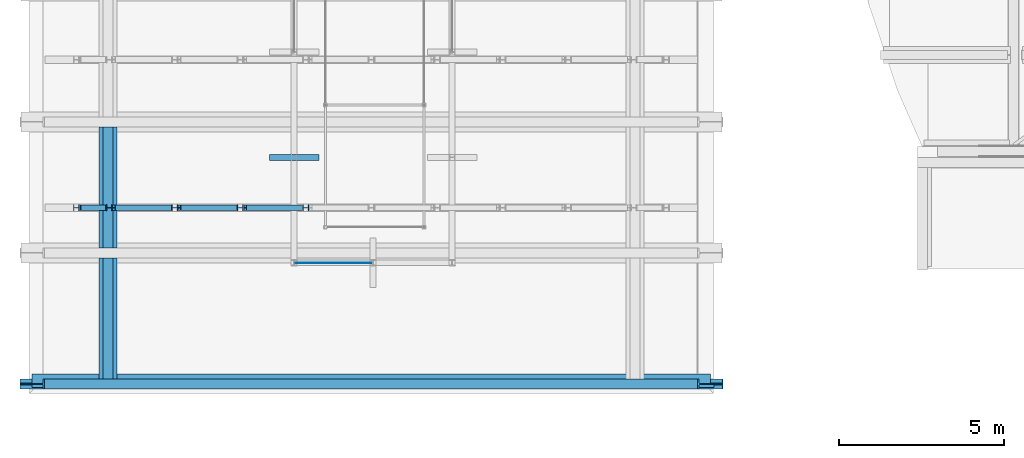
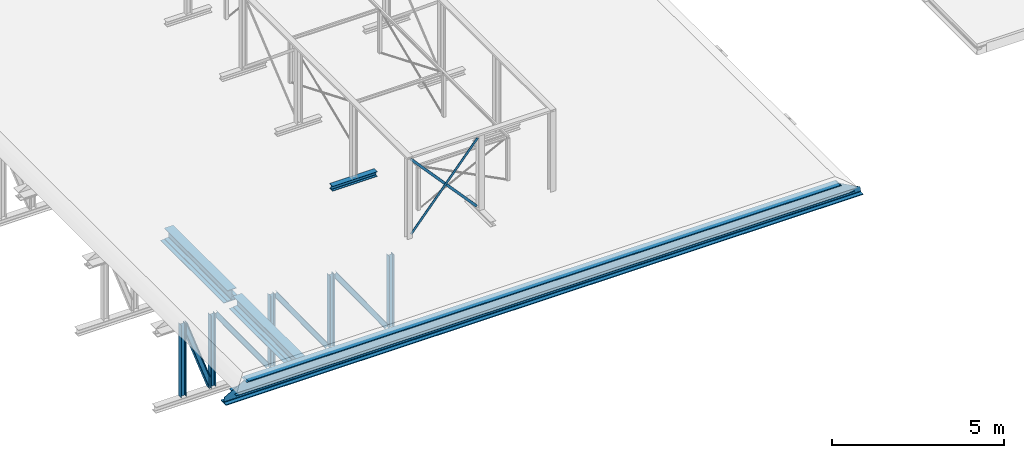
# One storey, part 8 of 50: 15 beams.
"""IFC2X3 building model written with IfcOpenShell, lengths in millimetres."""

from ifc_helpers import new_model, entity, si_unit, converted_unit, derived_unit, direction, frame, frame_2d, origin, origin_2d_with_axis, place, context, subcontext, project, spatial, polyline, circle_curve, parameter, trimmed, segment, composite_curve, rectangle, i_section, outline, extrude, clip, halfspace, bounded_halfspace, source, transform, mapped, material, material_list, type_object, type_shapes, element, save


model = new_model("IFC2X3")

# Units and contexts
model_context = context("Model", 3, precision=0.01, world=origin(), true_north=direction((6.12303176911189e-17, 1.0)))
body_context = subcontext(model_context, "Body", "Model", "MODEL_VIEW")
ifc_project = project(units=[si_unit("LENGTHUNIT", "METRE", prefix="MILLI"), si_unit("AREAUNIT", "SQUARE_METRE", prefix="MILLI"), si_unit("VOLUMEUNIT", "CUBIC_METRE"), converted_unit("PLANEANGLEUNIT", "DEGREE", entity("IfcRatioMeasure", 0.0174532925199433), si_unit("PLANEANGLEUNIT", "RADIAN"), dimensions=[0, 0, 0, 0, 0, 0, 0]), si_unit("MASSUNIT", "GRAM", prefix="KILO"), derived_unit("MASSDENSITYUNIT", [(si_unit("MASSUNIT", "GRAM", prefix="KILO"), 1), (si_unit("LENGTHUNIT", "METRE"), -3)]), derived_unit("MOMENTOFINERTIAUNIT", [(si_unit("LENGTHUNIT", "METRE"), 4)]), si_unit("TIMEUNIT", "SECOND"), si_unit("FREQUENCYUNIT", "HERTZ"), si_unit("THERMODYNAMICTEMPERATUREUNIT", "DEGREE_CELSIUS"), derived_unit("THERMALTRANSMITTANCEUNIT", [(si_unit("MASSUNIT", "GRAM", prefix="KILO"), 1), (si_unit("THERMODYNAMICTEMPERATUREUNIT", "KELVIN"), -1), (si_unit("TIMEUNIT", "SECOND"), -3)]), derived_unit("VOLUMETRICFLOWRATEUNIT", [(si_unit("LENGTHUNIT", "METRE"), 3), (si_unit("TIMEUNIT", "SECOND"), -1)]), si_unit("ELECTRICCURRENTUNIT", "AMPERE"), si_unit("ELECTRICVOLTAGEUNIT", "VOLT"), si_unit("POWERUNIT", "WATT"), si_unit("FORCEUNIT", "NEWTON", prefix="KILO"), si_unit("ILLUMINANCEUNIT", "LUX"), si_unit("LUMINOUSFLUXUNIT", "LUMEN"), si_unit("LUMINOUSINTENSITYUNIT", "CANDELA"), derived_unit("USERDEFINED", [(si_unit("MASSUNIT", "GRAM", prefix="KILO"), -1), (si_unit("LENGTHUNIT", "METRE"), -2), (si_unit("TIMEUNIT", "SECOND"), 3), (si_unit("LUMINOUSFLUXUNIT", "LUMEN"), 1)]), derived_unit("LINEARVELOCITYUNIT", [(si_unit("LENGTHUNIT", "METRE"), 1), (si_unit("TIMEUNIT", "SECOND"), -1)]), si_unit("PRESSUREUNIT", "PASCAL"), derived_unit("USERDEFINED", [(si_unit("LENGTHUNIT", "METRE"), -2), (si_unit("MASSUNIT", "GRAM", prefix="KILO"), 1), (si_unit("TIMEUNIT", "SECOND"), -2)]), derived_unit("LINEARFORCEUNIT", [(si_unit("MASSUNIT", "GRAM", prefix="KILO"), 1), (si_unit("LENGTHUNIT", "METRE"), 1), (si_unit("TIMEUNIT", "SECOND"), -2), (si_unit("LENGTHUNIT", "METRE"), -1)]), derived_unit("PLANARFORCEUNIT", [(si_unit("MASSUNIT", "GRAM", prefix="KILO"), 1), (si_unit("LENGTHUNIT", "METRE"), 1), (si_unit("TIMEUNIT", "SECOND"), -2), (si_unit("LENGTHUNIT", "METRE"), -2)])], contexts=[model_context])

# Site, building, storey
site_placement = place(None, origin())
site = spatial("IfcSite", under=ifc_project, at=site_placement, Name="Theater aan de Parade", CompositionType="ELEMENT")
building_placement = place(site_placement, origin())
building = spatial("IfcBuilding", under=site, at=building_placement, Name="Theater aan de Parade", CompositionType="ELEMENT")
storey_placement = place(building_placement, frame((0.0, 0.0, 15820.0)))
storey = spatial("IfcBuildingStorey", under=building, at=storey_placement, Name="04 vierde verdieping", CompositionType="ELEMENT", Elevation=15820.0)

# Beams
ifc_material_1 = material(Name="00_PBT_MAT_staal_S355")
beam_type_1 = type_object("IfcBeamType", Name="28_PBT_SF_staal_H-profiel:S355_HE180A", PredefinedType="NOTDEFINED")
beam_1_placement = place(storey_placement, frame((17139.8569884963, 19068.2922984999, -4340.0), z_axis=(1.0, 0.0, 0.0), x_axis=(0.0, 0.0, 1.0)))
element("IfcBeam", 1, at=beam_1_placement, inside=storey, type_object=beam_type_1, material=ifc_material_1, Name="28_PBT_SF_staal_H-profiel:S355_HE180A", ObjectType="28_PBT_SF_staal_H-profiel:S355_HE180A", context=body_context, shape_type="SweptSolid", body=[
    extrude(i_section(OverallWidth=180.0, OverallDepth=171.0, WebThickness=5.99999999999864, FlangeThickness=9.49999999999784, FilletRadius=15.0000000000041, at=frame_2d((-2.16715534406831e-12, -1.08002495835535e-12), x_axis=(0.0, 1.0))), frame((122.7, 0.0, 0.0), z_axis=(1.0, 0.0, 0.0), x_axis=(0.0, 0.0, -1.0)), (0.0, 0.0, 1.0), 2574.60000000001),
])
beam_2_placement = place(storey_placement, frame((18135.8569884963, 19068.2922984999, -4340.0), z_axis=(1.0, 0.0, 0.0), x_axis=(0.0, 0.0, 1.0)))
element("IfcBeam", 2, at=beam_2_placement, inside=storey, type_object=beam_type_1, material=ifc_material_1, Name="28_PBT_SF_staal_H-profiel:S355_HE180A", ObjectType="28_PBT_SF_staal_H-profiel:S355_HE180A", context=body_context, shape_type="SweptSolid", body=[
    extrude(i_section(OverallWidth=180.0, OverallDepth=171.0, WebThickness=5.99999999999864, FlangeThickness=9.49999999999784, FilletRadius=15.0000000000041, at=frame_2d((-4.33431068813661e-12, 1.08002495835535e-12), x_axis=(0.0, 1.0))), frame((122.7, 0.0, 0.0), z_axis=(1.0, 0.0, 0.0), x_axis=(0.0, 0.0, -1.0)), (0.0, 0.0, 1.0), 2574.60000000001),
])
beam_3_placement = place(storey_placement, frame((20127.8569884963, 19068.2922984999, -4340.0), z_axis=(1.0, 0.0, 0.0), x_axis=(0.0, 0.0, 1.0)))
element("IfcBeam", 3, at=beam_3_placement, inside=storey, type_object=beam_type_1, material=ifc_material_1, Name="28_PBT_SF_staal_H-profiel:S355_HE180A", ObjectType="28_PBT_SF_staal_H-profiel:S355_HE180A", context=body_context, shape_type="SweptSolid", body=[
    extrude(i_section(OverallWidth=180.0, OverallDepth=171.0, WebThickness=5.99999999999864, FlangeThickness=9.49999999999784, FilletRadius=15.0000000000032, at=frame_2d((2.16715534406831e-12, 5.41433564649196e-12), x_axis=(0.0, 1.0))), frame((122.700000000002, 0.0, 0.0), z_axis=(1.0, 0.0, 0.0), x_axis=(0.0, 0.0, -1.0)), (0.0, 0.0, 1.0), 2574.60000000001),
])
beam_4_placement = place(storey_placement, frame((22119.8569884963, 19068.2922984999, -4340.0), z_axis=(1.0, 0.0, 0.0), x_axis=(0.0, 0.0, 1.0)))
element("IfcBeam", 4, at=beam_4_placement, inside=storey, type_object=beam_type_1, material=ifc_material_1, Name="28_PBT_SF_staal_H-profiel:S355_HE180A", ObjectType="28_PBT_SF_staal_H-profiel:S355_HE180A", context=body_context, shape_type="SweptSolid", body=[
    extrude(i_section(OverallWidth=180.0, OverallDepth=171.0, WebThickness=5.99999999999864, FlangeThickness=9.49999999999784, FilletRadius=15.0000000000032, at=frame_2d((-2.16715534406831e-12, -1.08002495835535e-12), x_axis=(0.0, 1.0))), frame((122.699999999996, 0.0, 0.0), z_axis=(1.0, 0.0, 0.0), x_axis=(0.0, 0.0, -1.0)), (0.0, 0.0, 1.0), 2574.60000000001),
])
beam_5_placement = place(storey_placement, frame((24111.8569884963, 19068.2922984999, -4340.0), z_axis=(1.0, 0.0, 0.0), x_axis=(0.0, 0.0, 1.0)))
element("IfcBeam", 5, at=beam_5_placement, inside=storey, type_object=beam_type_1, material=ifc_material_1, Name="28_PBT_SF_staal_H-profiel:S355_HE180A", ObjectType="28_PBT_SF_staal_H-profiel:S355_HE180A", context=body_context, shape_type="SweptSolid", body=[
    extrude(i_section(OverallWidth=180.0, OverallDepth=171.0, WebThickness=5.99999999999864, FlangeThickness=9.49999999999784, FilletRadius=15.0000000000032, at=frame_2d((-2.16715534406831e-12, -1.08002495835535e-12), x_axis=(0.0, 1.0))), frame((122.7, 0.0, 0.0), z_axis=(1.0, 0.0, 0.0), x_axis=(0.0, 0.0, -1.0)), (0.0, 0.0, 1.0), 2574.60000000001),
])
beam_6_placement = place(storey_placement, frame((17139.8569884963, 19068.2922984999, -1520.0), z_axis=(0.942916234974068, 0.0, 0.333029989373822), x_axis=(0.333029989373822, 0.0, -0.942916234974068)))
element("IfcBeam", 6, at=beam_6_placement, inside=storey, type_object=beam_type_1, material=ifc_material_1, Name="28_PBT_SF_staal_H-profiel:S355_HE180A", ObjectType="28_PBT_SF_staal_H-profiel:S355_HE180A", context=body_context, shape_type="Clipping", body=[
    clip(clip(extrude(outline(composite_curve([segment(polyline([(76.0, -90.0), (85.5000000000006, -90.0)]), True, "CONTINUOUS"), segment(polyline([(85.4999999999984, -90.0), (85.5000000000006, 90.0)]), True, "CONTINUOUS"), segment(polyline([(85.4999999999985, 90.0), (76.0, 90.0)]), True, "CONTINUOUS"), segment(polyline([(76.0, 90.0), (76.0, 18.0)]), True, "CONTINUOUS"), segment(trimmed(circle_curve(frame_2d((61.0, 18.0), x_axis=(1.0, 0.0)), 15.0000000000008), [parameter(270.0)], [parameter(0.0)], True, "PARAMETER"), False, "CONTINUOUS"), segment(polyline([(61.0, 3.0), (-61.0, 3.0)]), True, "CONTINUOUS"), segment(trimmed(circle_curve(frame_2d((-61.0, 18.0), x_axis=(0.0, -1.0)), 15.0000000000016), [parameter(270.000000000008)], [parameter(0.0)], True, "PARAMETER"), False, "CONTINUOUS"), segment(polyline([(-76.0, 18.0), (-76.0, 90.0)]), True, "CONTINUOUS"), segment(polyline([(-76.0, 90.0), (-85.4999999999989, 90.0)]), True, "CONTINUOUS"), segment(polyline([(-85.4999999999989, 90.0), (-85.499999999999, -90.0)]), True, "CONTINUOUS"), segment(polyline([(-85.4999999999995, -90.0), (-76.0, -90.0)]), True, "CONTINUOUS"), segment(polyline([(-76.0, -90.0), (-76.0, -18.0)]), True, "CONTINUOUS"), segment(trimmed(circle_curve(frame_2d((-61.0, -18.0), x_axis=(-1.0, 0.0)), 15.0000000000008), [parameter(270.0)], [parameter(0.0)], True, "PARAMETER"), False, "CONTINUOUS"), segment(polyline([(-61.0, -3.0), (61.0, -3.0)]), True, "CONTINUOUS"), segment(trimmed(circle_curve(frame_2d((61.0, -18.0), x_axis=(0.0, 1.0)), 15.0000000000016), [parameter(270.000000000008)], [parameter(0.0)], True, "PARAMETER"), False, "CONTINUOUS"), segment(polyline([(76.0, -18.0), (76.0, -90.0)]), True, "CONTINUOUS")], self_intersect=False)), frame((159.557227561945, 0.0, 0.0), z_axis=(1.0, 0.0, 0.0), x_axis=(0.0, 0.0, -1.0)), (0.0, 0.0, 1.0), 2671.60719691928), halfspace(frame((2597.32094917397, 110.0, -805.464727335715), z_axis=(-0.333029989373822, 0.0, -0.942916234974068), x_axis=(-0.942916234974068, 0.0, 0.333029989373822)), False)), halfspace(frame((2858.74949083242, -110.0, -65.2754828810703), z_axis=(0.333029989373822, 0.0, 0.942916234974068), x_axis=(-0.942916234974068, 0.0, 0.333029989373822)), False)),
])
beam_7_placement = place(storey_placement, frame((18135.8569884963, 19068.2922984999, -1520.0), z_axis=(0.816775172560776, 0.0, 0.576956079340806), x_axis=(0.576956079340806, 0.0, -0.816775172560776)))
element("IfcBeam", 7, at=beam_7_placement, inside=storey, type_object=beam_type_1, material=ifc_material_1, Name="28_PBT_SF_staal_H-profiel:S355_HE180A", ObjectType="28_PBT_SF_staal_H-profiel:S355_HE180A", context=body_context, shape_type="Clipping", body=[
    clip(clip(extrude(outline(composite_curve([segment(polyline([(76.0, -90.0), (85.500000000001, -90.0)]), True, "CONTINUOUS"), segment(polyline([(85.4999999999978, -90.0), (85.4999999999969, 90.0)]), True, "CONTINUOUS"), segment(polyline([(85.4999999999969, 90.0), (76.0, 90.0)]), True, "CONTINUOUS"), segment(polyline([(76.0, 90.0), (76.0, 18.0)]), True, "CONTINUOUS"), segment(trimmed(circle_curve(frame_2d((61.0, 18.0), x_axis=(1.0, 0.0)), 15.0000000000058), [parameter(270.00000000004)], [parameter(0.0)], True, "PARAMETER"), False, "CONTINUOUS"), segment(polyline([(61.0, 3.0), (-61.0, 3.0)]), True, "CONTINUOUS"), segment(trimmed(circle_curve(frame_2d((-61.0, 18.0), x_axis=(0.0, -1.0)), 15.000000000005), [parameter(270.000000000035)], [parameter(0.0)], True, "PARAMETER"), False, "CONTINUOUS"), segment(polyline([(-76.0, 18.0), (-76.0, 90.0)]), True, "CONTINUOUS"), segment(polyline([(-76.0, 90.0), (-85.4999999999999, 90.0)]), True, "CONTINUOUS"), segment(polyline([(-85.4999999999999, 90.0), (-85.4999999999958, -90.0)]), True, "CONTINUOUS"), segment(polyline([(-85.4999999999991, -90.0), (-76.0, -90.0)]), True, "CONTINUOUS"), segment(polyline([(-76.0, -90.0), (-76.0, -18.0)]), True, "CONTINUOUS"), segment(trimmed(circle_curve(frame_2d((-61.0, -18.0), x_axis=(-1.0, 0.0)), 15.000000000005), [parameter(270.000000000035)], [parameter(0.0)], True, "PARAMETER"), False, "CONTINUOUS"), segment(polyline([(-61.0, -3.0), (61.0, -3.0)]), True, "CONTINUOUS"), segment(trimmed(circle_curve(frame_2d((61.0, -18.0), x_axis=(0.0, 1.0)), 15.000000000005), [parameter(270.000000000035)], [parameter(0.0)], True, "PARAMETER"), False, "CONTINUOUS"), segment(polyline([(76.0, -18.0), (76.0, -90.0)]), True, "CONTINUOUS")], self_intersect=False)), frame((207.771728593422, 0.0, 0.0), z_axis=(1.0, 0.0, 0.0), x_axis=(0.0, 0.0, -1.0)), (0.0, 0.0, 1.0), 3037.0590394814), halfspace(frame((2280.29204276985, 110.0, -1481.5929736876), z_axis=(-0.576956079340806, 0.0, -0.816775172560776), x_axis=(-0.816775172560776, 0.0, 0.576956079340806)), False)), halfspace(frame((3307.85082007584, -110.0, -26.9163913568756), z_axis=(0.576956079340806, 0.0, 0.816775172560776), x_axis=(-0.816775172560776, 0.0, 0.576956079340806)), False)),
])
beam_8_placement = place(storey_placement, frame((20127.8569884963, 19068.2922984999, -1520.0), z_axis=(0.816775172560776, 0.0, 0.576956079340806), x_axis=(0.576956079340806, 0.0, -0.816775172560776)))
element("IfcBeam", 8, at=beam_8_placement, inside=storey, type_object=beam_type_1, material=ifc_material_1, Name="28_PBT_SF_staal_H-profiel:S355_HE180A", ObjectType="28_PBT_SF_staal_H-profiel:S355_HE180A", context=body_context, shape_type="Clipping", body=[
    clip(clip(extrude(outline(composite_curve([segment(polyline([(76.0, -90.0), (85.4999999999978, -90.0)]), True, "CONTINUOUS"), segment(polyline([(85.4999999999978, -90.0), (85.4999999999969, 90.0)]), True, "CONTINUOUS"), segment(polyline([(85.4999999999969, 90.0), (76.0, 90.0)]), True, "CONTINUOUS"), segment(polyline([(76.0, 90.0), (76.0, 18.0)]), True, "CONTINUOUS"), segment(trimmed(circle_curve(frame_2d((61.0, 18.0), x_axis=(1.0, 0.0)), 14.9999999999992), [parameter(269.999999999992)], [parameter(0.0)], True, "PARAMETER"), False, "CONTINUOUS"), segment(polyline([(61.0, 3.0), (-61.0, 3.0)]), True, "CONTINUOUS"), segment(trimmed(circle_curve(frame_2d((-61.0, 18.0), x_axis=(0.0, -1.0)), 14.999999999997), [parameter(269.999999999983)], [parameter(0.0)], True, "PARAMETER"), False, "CONTINUOUS"), segment(polyline([(-76.0, 18.0), (-76.0, 90.0)]), True, "CONTINUOUS"), segment(polyline([(-76.0, 90.0), (-85.4999999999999, 90.0)]), True, "CONTINUOUS"), segment(polyline([(-85.4999999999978, 90.0), (-85.4999999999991, -90.0)]), True, "CONTINUOUS"), segment(polyline([(-85.4999999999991, -90.0), (-76.0, -90.0)]), True, "CONTINUOUS"), segment(polyline([(-76.0, -90.0), (-76.0, -18.0)]), True, "CONTINUOUS"), segment(trimmed(circle_curve(frame_2d((-61.0, -18.0), x_axis=(-1.0, 0.0)), 14.999999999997), [parameter(269.999999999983)], [parameter(0.0)], True, "PARAMETER"), False, "CONTINUOUS"), segment(polyline([(-61.0, -3.0), (61.0, -3.0)]), True, "CONTINUOUS"), segment(trimmed(circle_curve(frame_2d((61.0, -18.0), x_axis=(0.0, 1.0)), 14.9999999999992), [parameter(269.999999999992)], [parameter(0.0)], True, "PARAMETER"), False, "CONTINUOUS"), segment(polyline([(76.0, -18.0), (76.0, -90.0)]), True, "CONTINUOUS")], self_intersect=False)), frame((207.771728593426, 0.0, 0.0), z_axis=(1.0, 0.0, 0.0), x_axis=(0.0, 0.0, -1.0)), (0.0, 0.0, 1.0), 3037.0590394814), halfspace(frame((2280.29204276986, 110.0, -1481.59297368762), z_axis=(-0.576956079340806, 0.0, -0.816775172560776), x_axis=(-0.816775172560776, 0.0, 0.576956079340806)), False)), halfspace(frame((3307.85082007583, -110.0, -26.916391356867), z_axis=(0.576956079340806, 0.0, 0.816775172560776), x_axis=(-0.816775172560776, 0.0, 0.576956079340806)), False)),
])
beam_9_placement = place(storey_placement, frame((22119.8569884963, 19068.2922984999, -1520.0), z_axis=(0.816775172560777, 0.0, 0.576956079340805), x_axis=(0.576956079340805, 0.0, -0.816775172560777)))
element("IfcBeam", 9, at=beam_9_placement, inside=storey, type_object=beam_type_1, material=ifc_material_1, Name="28_PBT_SF_staal_H-profiel:S355_HE180A", ObjectType="28_PBT_SF_staal_H-profiel:S355_HE180A", context=body_context, shape_type="Clipping", body=[
    clip(clip(extrude(outline(composite_curve([segment(polyline([(76.0, -90.0), (85.500000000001, -90.0)]), True, "CONTINUOUS"), segment(polyline([(85.4999999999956, -90.0), (85.4999999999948, 90.0)]), True, "CONTINUOUS"), segment(polyline([(85.4999999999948, 90.0), (76.0, 90.0)]), True, "CONTINUOUS"), segment(polyline([(76.0, 90.0), (76.0, 18.0)]), True, "CONTINUOUS"), segment(trimmed(circle_curve(frame_2d((61.0, 18.0), x_axis=(1.0, 0.0)), 14.9999999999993), [parameter(269.999999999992)], [parameter(0.0)], True, "PARAMETER"), False, "CONTINUOUS"), segment(polyline([(61.0, 3.0), (-61.0, 3.0)]), True, "CONTINUOUS"), segment(trimmed(circle_curve(frame_2d((-61.0, 18.0), x_axis=(0.0, -1.0)), 14.9999999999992), [parameter(269.999999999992)], [parameter(0.0)], True, "PARAMETER"), False, "CONTINUOUS"), segment(polyline([(-76.0, 18.0), (-76.0, 90.0)]), True, "CONTINUOUS"), segment(polyline([(-76.0, 90.0), (-85.5000000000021, 90.0)]), True, "CONTINUOUS"), segment(polyline([(-85.5000000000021, 90.0), (-85.5000000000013, -90.0)]), True, "CONTINUOUS"), segment(polyline([(-85.5000000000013, -90.0), (-76.0, -90.0)]), True, "CONTINUOUS"), segment(polyline([(-76.0, -90.0), (-76.0, -18.0)]), True, "CONTINUOUS"), segment(trimmed(circle_curve(frame_2d((-61.0, -18.0), x_axis=(-1.0, 0.0)), 14.9999999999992), [parameter(269.999999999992)], [parameter(0.0)], True, "PARAMETER"), False, "CONTINUOUS"), segment(polyline([(-61.0, -3.0), (61.0, -3.0)]), True, "CONTINUOUS"), segment(trimmed(circle_curve(frame_2d((61.0, -18.0), x_axis=(0.0, 1.0)), 14.999999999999), [parameter(269.999999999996)], [parameter(0.0)], True, "PARAMETER"), False, "CONTINUOUS"), segment(polyline([(76.0, -18.0), (76.0, -90.0)]), True, "CONTINUOUS")], self_intersect=False)), frame((207.771728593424, 0.0, 0.0), z_axis=(1.0, 0.0, 0.0), x_axis=(0.0, 0.0, -1.0)), (0.0, 0.0, 1.0), 3037.0590394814), halfspace(frame((2280.29204276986, 110.0, -1481.5929736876), z_axis=(-0.576956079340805, 0.0, -0.816775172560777), x_axis=(-0.816775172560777, 0.0, 0.576956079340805)), False)), halfspace(frame((3307.85082007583, -110.0, -26.9163913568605), z_axis=(0.576956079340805, 0.0, 0.816775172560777), x_axis=(-0.816775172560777, 0.0, 0.576956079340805)), False)),
])
beam_10_placement = place(storey_placement, frame((24503.8569986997, 20598.8337248, 0.0), z_axis=(0.0, 0.0, 1.0), x_axis=(-1.0, 0.0, 0.0)))
element("IfcBeam", 10, at=beam_10_placement, inside=storey, type_object=beam_type_1, material=ifc_material_1, Name="28_PBT_SF_staal_H-profiel:S355_HE180A", ObjectType="28_PBT_SF_staal_H-profiel:S355_HE180A", context=body_context, shape_type="SweptSolid", body=[
    extrude(outline(composite_curve([segment(polyline([(76.0, -90.0), (85.5000000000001, -90.0)]), True, "CONTINUOUS"), segment(polyline([(85.5000000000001, -90.0), (85.5000000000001, 90.0)]), True, "CONTINUOUS"), segment(polyline([(85.5000000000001, 90.0), (76.0, 90.0)]), True, "CONTINUOUS"), segment(polyline([(76.0, 90.0), (76.0, 18.0)]), True, "CONTINUOUS"), segment(trimmed(circle_curve(frame_2d((61.0, 18.0), x_axis=(1.0, 0.0)), 15.0000000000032), [parameter(270.000000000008)], [parameter(0.0)], True, "PARAMETER"), False, "CONTINUOUS"), segment(polyline([(61.0, 3.0), (-61.0, 3.0)]), True, "CONTINUOUS"), segment(trimmed(circle_curve(frame_2d((-61.0, 18.0), x_axis=(0.0, -1.0)), 15.0000000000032), [parameter(270.000000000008)], [parameter(0.0)], True, "PARAMETER"), False, "CONTINUOUS"), segment(polyline([(-76.0, 18.0), (-76.0, 90.0)]), True, "CONTINUOUS"), segment(polyline([(-76.0, 90.0), (-85.5000000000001, 90.0)]), True, "CONTINUOUS"), segment(polyline([(-85.5000000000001, 90.0), (-85.5000000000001, -90.0)]), True, "CONTINUOUS"), segment(polyline([(-85.4999999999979, -90.0), (-76.0, -90.0)]), True, "CONTINUOUS"), segment(polyline([(-76.0, -90.0), (-76.0, -18.0)]), True, "CONTINUOUS"), segment(trimmed(circle_curve(frame_2d((-61.0, -18.0), x_axis=(-1.0, 0.0)), 15.0000000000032), [parameter(270.000000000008)], [parameter(0.0)], True, "PARAMETER"), False, "CONTINUOUS"), segment(polyline([(-61.0, -3.0), (61.0, -3.0)]), True, "CONTINUOUS"), segment(trimmed(circle_curve(frame_2d((61.0, -18.0), x_axis=(0.0, 1.0)), 15.0000000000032), [parameter(270.000000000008)], [parameter(0.0)], True, "PARAMETER"), False, "CONTINUOUS"), segment(polyline([(76.0, -18.0), (76.0, -90.0)]), True, "CONTINUOUS")], self_intersect=False)), frame((0.0, 0.0, 184.499999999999), z_axis=(1.0, 0.0, 0.0), x_axis=(0.0, 0.0, -1.0)), (0.0, 0.0, 1.0), 1500.00000000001),
])
ifc_material_2 = material(Name="00_PBT_MAT_Lucht")
ifc_material_list_1 = material_list([ifc_material_1, ifc_material_2])
beam_type_2 = type_object("IfcBeamType", Name="28_PBT_SF_staal_H-profiel_met_oplegstrippen (void):S355_HE600B + oplegstrip_vloer h=500", PredefinedType="BEAM", material=ifc_material_list_1)
shared_shape_1 = source(origin(), body_context, "Body", "SweptSolid", [
    clip(clip(clip(clip(extrude(i_section(OverallWidth=300.000000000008, OverallDepth=600.0, WebThickness=15.4999999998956, FlangeThickness=30.000000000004, FilletRadius=27.0000000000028, at=frame_2d((1.08002495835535e-12, 4.33431068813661e-12), x_axis=(0.0, 1.0))), frame((15427.3042052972, 13714.2274014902, 15490.0), z_axis=(1.0, 0.0, 0.0), x_axis=(0.0, 0.0, -1.0)), (0.0, 0.0, 1.0), 21352.8563544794), bounded_halfspace(frame((36752.3300473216, -8829.03416588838, 15388.4999999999), z_axis=(0.990313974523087, 0.0, 0.138846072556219), x_axis=(0.0, 1.0, 0.0)), False, frame((15427.3042052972, 13714.2274014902, 15490.0), z_axis=(1.0, 0.0, 0.0), x_axis=(0.0, 0.0, -1.0)), polyline([(101.500000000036, 7.74999999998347), (101.500000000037, -7.75000000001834), (243.0, -7.75000000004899), (270.0, -34.7500000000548), (270.0, -150.0), (300.0, -150.0), (300.0, 150.0), (270.0, 150.0), (270.0, 34.7499999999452), (243.0, 7.74999999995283), (101.500000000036, 7.74999999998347)]))), bounded_halfspace(frame((35741.3581300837, -8829.03416588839, 15932.8522779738), z_axis=(0.474088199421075, 0.0, 0.880477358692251), x_axis=(0.0, 1.0, 0.0)), False, frame((15427.3042052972, 13714.2274014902, 15490.0), z_axis=(1.0, 0.0, 0.0), x_axis=(0.0, 0.0, -1.0)), polyline([(101.500000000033, -7.75000000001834), (101.50000000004, 7.74999999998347), (-243.0, 7.75000000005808), (-270.0, 34.7500000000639), (-270.0, 150.0), (-300.0, 150.0), (-300.0, -150.0), (-270.0, -150.0), (-270.0, -34.7499999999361), (-243.0, -7.74999999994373), (101.500000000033, -7.75000000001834)]))), bounded_halfspace(frame((15456.6835045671, 36395.2389688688, 15390.0), z_axis=(-0.989382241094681, 0.0, 0.145336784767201), x_axis=(0.0, -1.0, 0.0)), False, frame((15427.3042052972, 13714.2274014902, 15490.0), z_axis=(1.0, 0.0, 0.0), x_axis=(0.0, 0.0, -1.0)), polyline([(100.0, -7.75000000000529), (100.0, 7.74999999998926), (243.0, 7.74999999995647), (270.0, 34.7499999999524), (270.0, 150.0), (300.0, 150.0), (300.0, -150.0), (270.0, -150.0), (270.0, -34.7500000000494), (243.0, -7.75000000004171), (100.0, -7.75000000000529)]))), bounded_halfspace(frame((16451.3570032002, 36395.2389688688, 15941.3565235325), z_axis=(-0.484809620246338, 0.0, 0.874619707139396), x_axis=(0.0, -1.0, 0.0)), False, frame((15427.3042052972, 13714.2274014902, 15490.0), z_axis=(1.0, 0.0, 0.0), x_axis=(0.0, 0.0, -1.0)), polyline([(100.0, 7.74999999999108), (100.0, -7.75000000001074), (-243.0, -7.74999999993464), (-270.0, -34.7499999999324), (-270.0, -150.0), (-300.0, -150.0), (-300.0, 150.0), (-270.0, 150.0), (-270.0, 34.7500000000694), (-243.0, 7.75000000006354), (100.0, 7.74999999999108)]))),
    extrude(rectangle(XDim=11.9999999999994, YDim=299.999999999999, at=frame_2d((-1.0831335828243e-12, 7.58859641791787e-12), x_axis=(1.0, 0.0))), frame((15797.7892826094, 13871.9774014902, 15384.0), z_axis=(1.0, 0.0, 0.0), x_axis=(0.0, 0.0, -1.0)), (0.0, 0.0, 1.0), 20612.1365673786),
    extrude(rectangle(XDim=11.9999999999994, YDim=99.9999999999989, at=frame_2d((-1.0831335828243e-12, 8.66151594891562e-12), x_axis=(1.0, 0.0))), frame((15797.7892826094, 13656.4774014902, 15384.0), z_axis=(1.0, 0.0, 0.0), x_axis=(0.0, 0.0, -1.0)), (0.0, 0.0, 1.0), 20712.1365673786),
])
type_shapes(beam_type_2, [shared_shape_1])
beam_11_placement = place(storey_placement, frame((0.0, 0.0, -15820.0)))
element("IfcBeam", 11, at=beam_11_placement, inside=storey, type_object=beam_type_2, material=ifc_material_1, Name="28_PBT_SF_staal_H-profiel_met_oplegstrippen (void):S355_HE600B + oplegstrip_vloer h=500", ObjectType="28_PBT_SF_staal_H-profiel_met_oplegstrippen (void):S355_HE600B + oplegstrip_vloer h=500", context=body_context, shape_type="MappedRepresentation", body=[
    mapped(shared_shape_1, transform((0.0, 0.0, 0.0), scale=1.0)),
])
ifc_material_list_2 = material_list([ifc_material_1, ifc_material_2])
beam_type_3 = type_object("IfcBeamType", Name="28_PBT_SF_staal_H-profiel_met_onderplaat (void):S355_HE400A + onderplaat d=20", PredefinedType="BEAM", material=ifc_material_list_2)
shared_shape_2 = source(origin(), body_context, "Body", "SweptSolid", [
    extrude(rectangle(XDim=20.0, YDim=550.0, at=origin_2d_with_axis()), frame((-1832.24999999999, 0.0, -205.0), z_axis=(1.0, 0.0, 0.0), x_axis=(0.0, 0.0, -1.0)), (0.0, 0.0, 1.0), 3664.50000000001),
    extrude(i_section(OverallWidth=300.0, OverallDepth=390.0, WebThickness=11.0, FlangeThickness=18.9999999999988, FilletRadius=27.0, at=frame_2d((-3.97903932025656e-13, 0.0), x_axis=(0.0, 1.0))), frame((-1832.24999999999, 0.0, 0.0), z_axis=(1.0, 0.0, 0.0), x_axis=(0.0, 0.0, -1.0)), (0.0, 0.0, 1.0), 3664.50000000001),
])
type_shapes(beam_type_3, [shared_shape_2])
for number, where, z_axis, x_axis in (
    (12, (18098.3570025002, 19684.2274014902, -235.0), (0.0, 0.0, 1.0), (0.0, 1.0, 0.0)),
    (13, (18098.3570025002, 15704.2274014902, -235.0), (0.0, 0.0, 1.0), (0.0, 1.0, 0.0)),
):
    element("IfcBeam", number, at=place(storey_placement, frame(where, z_axis=z_axis, x_axis=x_axis)), inside=storey, type_object=beam_type_3, material=ifc_material_1, Name="28_PBT_SF_staal_H-profiel_met_onderplaat (void):S355_HE400A + onderplaat d=20", ObjectType="28_PBT_SF_staal_H-profiel_met_onderplaat (void):S355_HE400A + onderplaat d=20", context=body_context, shape_type="MappedRepresentation", body=[
        mapped(shared_shape_2, transform((0.0, 0.0, 0.0), scale=1.0)),
    ])
ifc_material_3 = material(Name="00_PBT_MAT_staal")
beam_type_4 = type_object("IfcBeamType", Name="28_PBT_SF_staal_strip:strip 8x80", PredefinedType="NOTDEFINED")
beam_12_placement = place(storey_placement, frame((23755.1367196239, 17390.8337248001, 91.4597965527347), z_axis=(0.762472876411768, 0.0, -0.647020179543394), x_axis=(0.647020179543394, 0.0, 0.762472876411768)))
element("IfcBeam", 14, at=beam_12_placement, inside=storey, type_object=beam_type_4, material=ifc_material_3, Name="28_PBT_SF_staal_strip:strip 8x80", ObjectType="28_PBT_SF_staal_strip:strip 8x80", context=body_context, shape_type="SweptSolid", body=[
    extrude(rectangle(XDim=79.9999999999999, YDim=8.00000000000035, at=frame_2d((0.0, -1.0831335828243e-12), x_axis=(1.0, 0.0))), frame((117.751652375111, 0.0, 0.0), z_axis=(1.0, 0.0, 0.0), x_axis=(0.0, 0.0, -1.0)), (0.0, 0.0, 1.0), 3450.48370112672),
])
beam_13_placement = place(storey_placement, frame((26152.4970446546, 17398.8337248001, 271.486288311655), z_axis=(0.740987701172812, 0.0, 0.67151859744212), x_axis=(-0.67151859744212, 0.0, 0.740987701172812)))
element("IfcBeam", 15, at=beam_13_placement, inside=storey, type_object=beam_type_4, material=ifc_material_3, Name="28_PBT_SF_staal_strip:strip 8x80", ObjectType="28_PBT_SF_staal_strip:strip 8x80", context=body_context, shape_type="SweptSolid", body=[
    extrude(rectangle(XDim=80.0000000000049, YDim=8.00000000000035, at=frame_2d((-4.66826577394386e-12, -1.0831335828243e-12), x_axis=(1.0, 0.0))), frame((172.201497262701, 0.0, 0.0), z_axis=(1.0, 0.0, 0.0), x_axis=(0.0, 0.0, -1.0)), (0.0, 0.0, 1.0), 3300.7783652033),
])

save(model, "model.ifc")
